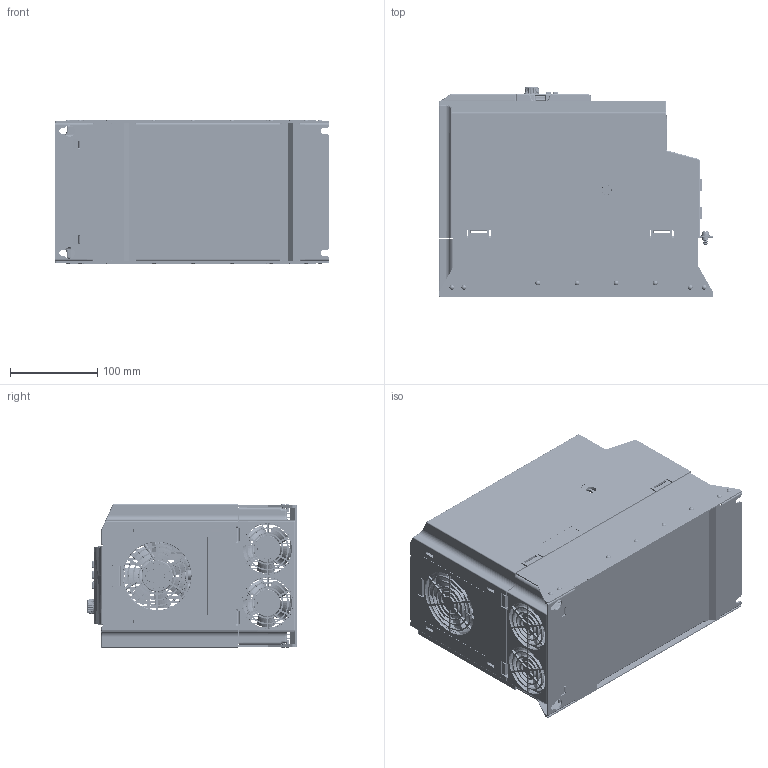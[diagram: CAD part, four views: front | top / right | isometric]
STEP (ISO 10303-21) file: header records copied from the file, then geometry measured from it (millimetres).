
FILE_DESCRIPTION((''),'2;1');
FILE_NAME('VFC5610-22K0-3P4-MNA-XX-NNNNN-N','2023-03-27T15:34:18',('ZUX1XI'),(''),'CREO PARAMETRIC BY PTC INC, 2021072','CREO PARAMETRIC BY PTC INC, 2021072','');
FILE_SCHEMA(('AUTOMOTIVE_DESIGN { 1 0 10303 214 1 1 1 1 }'));
Products named in the file (46): MANIFOLD_SOLID_BREP_6187_1_1; MANIFOLD_SOLID_BREP_6389_1_1; MANIFOLD_SOLID_BREP_6591_1_1; MANIFOLD_SOLID_BREP_6793_1_1; MANIFOLD_SOLID_BREP_6995_1_1; HEATSINK_ASSEMBLY_E_AF1_1_ASM_1; 123_E_AF1_1_1_1; RADIATOR_1_E_1_1_1; RIVETING_E_1_1_1; RIVETING_E_AF0_1_1_1; RIVETING_E_AF1_1_1_1; HEATSINK_HOUSING_E_ASM_1_ASM_1_; E_ESK150V_6PIN_UVW_E_1_1_1; YMB_22K_E_ASM_1_ASM_1_1; PRT0014_E_1_ASM_1_1; E_ESK150V_3PIN_L_E_1_1_1; EMC_FILTER_E_ASM_1_ASM_1_1; FAN_CONVER_2_E_1_1_1; PE-3_E_1_ASM_1_1; 80X15_E_1_1_1; LDZHJ_SZCYZT_M5X12_E_1_1_1; PL_EFC5610_IOCAE_CONVER_E_1_1_1; CPU_CONNECTOR-14P_E_1_1_1; 548190519_E_1_1_1; 1155590000_E_1_1_1; LK_YCP06_E_ASM_1_ASM_1_1; 01-IOBACK_CASE_E_1_1_1; 01_DISPLAYCASE__E_1_1_1; LED__E_1_1_1; DISPLAY_PCB__E_ASM_1_ASM_1_1; BACK_CASE1__E_1_1_1; R911330333_FOLIE__E_1_1_1; BUUTTON__E_1_1_1; XUAN_NIU__E_1_1_1; LED_PANLE_E_ASM_1_ASM_1_1; 01-IOCASE_E_ASM_1_ASM_1_1; E_CONNECTOR_2X5_SCREW_E_1_ASM_1; FAN_COVER_22KW_BTM_E_1_1_1; 60-38_E_1_1_1; FAN-BTM_E_ASM_1_ASM_1_1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
Assembly tree (60 placements, depth 9):
  VFC5610-22K0-3P4-MNA-XX-NNNNN-N
    VFC5610-22K0-3P4-MNA-XX-NNNNN_2
      VFC5610-22K0-3P4-MNA-XX-NNNNN_1
        00_2013_EFC5610_22K_ASM_ASM_1_1
          00_2013_EFC5610_22K_ASM_2_ASM_1
            HEATSINK_HOUSING_E_ASM_1_ASM_1_
              HEATSINK_ASSEMBLY_E_AF1_1_ASM_1
                MANIFOLD_SOLID_BREP_6187_1_1
                MANIFOLD_SOLID_BREP_6389_1_1
                MANIFOLD_SOLID_BREP_6591_1_1
                MANIFOLD_SOLID_BREP_6793_1_1
                MANIFOLD_SOLID_BREP_6995_1_1
              123_E_AF1_1_1_1
              RADIATOR_1_E_1_1_1
              RIVETING_E_1_1_1  x14
              RIVETING_E_AF0_1_1_1
              RIVETING_E_AF1_1_1_1
            YMB_22K_E_ASM_1_ASM_1_1
              E_ESK150V_6PIN_UVW_E_1_1_1
            EMC_FILTER_E_ASM_1_ASM_1_1
              PRT0014_E_1_ASM_1_1
              E_ESK150V_3PIN_L_E_1_1_1
            FAN_CONVER_2_E_1_1_1
            PE-3_E_1_ASM_1_1
            80X15_E_1_1_1
            LDZHJ_SZCYZT_M5X12_E_1_1_1  x2
            01-IOCASE_E_ASM_1_ASM_1_1
              PL_EFC5610_IOCAE_CONVER_E_1_1_1
              LK_YCP06_E_ASM_1_ASM_1_1
                CPU_CONNECTOR-14P_E_1_1_1
                548190519_E_1_1_1
                1155590000_E_1_1_1
              01-IOBACK_CASE_E_1_1_1
              LED_PANLE_E_ASM_1_ASM_1_1
                01_DISPLAYCASE__E_1_1_1
                DISPLAY_PCB__E_ASM_1_ASM_1_1
                  LED__E_1_1_1
                BACK_CASE1__E_1_1_1
                R911330333_FOLIE__E_1_1_1
                BUUTTON__E_1_1_1
                XUAN_NIU__E_1_1_1
            E_CONNECTOR_2X5_SCREW_E_1_ASM_1
            FAN-BTM_E_ASM_1_ASM_1_1
              FAN_COVER_22KW_BTM_E_1_1_1
              60-38_E_1_1_1  x2
            606-01-PART_1_1_1
Bounding box: 315 x 240.55 x 166 mm (x, y, z)
Volume: 2005513.6 mm3; surface area: 1714038.5 mm2
Topology: 44 solids, 50 shells, 9840 faces, 26889 edges, 17364 vertices
Faces by surface type: plane 5959, cylinder 2005, bspline 723, cone 453, torus 384, sphere 188, extrusion 128
Entity records: 416039 total; most frequent: CARTESIAN_POINT 107904, ORIENTED_EDGE 50256, DIRECTION 44008, PRESENTATION_STYLE_ASSIGNMENT 25157, STYLED_ITEM 25157, CURVE_STYLE 25128, EDGE_CURVE 25128, VECTOR 16744
